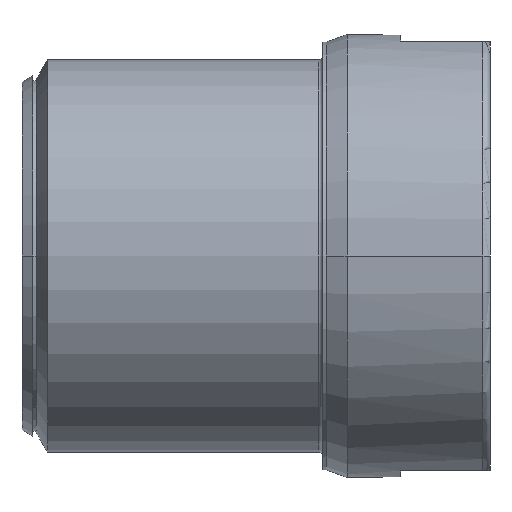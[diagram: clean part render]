
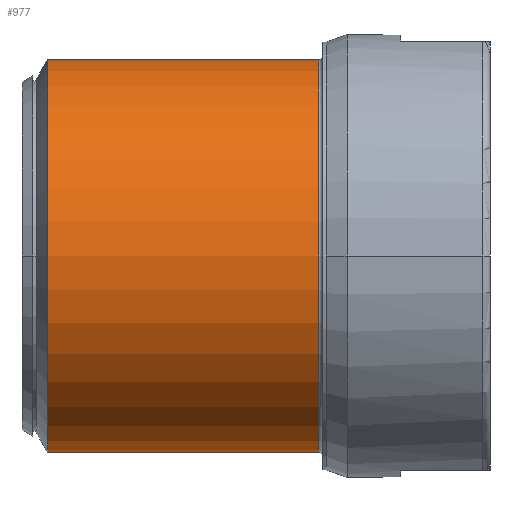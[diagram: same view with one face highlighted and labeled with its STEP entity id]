
A CAD part, front view. The second image highlights one B-rep face of the part: STEP entity #977.
In plain terms, the highlighted cylindrical face has radius 55 mm (diameter 110 mm), a partial arc.
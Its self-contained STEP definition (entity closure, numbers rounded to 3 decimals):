
#63 = AXIS2_PLACEMENT_3D ( 'NONE', #753, #750, #756 ) ;
#66 = VECTOR ( 'NONE', #718, 1000. ) ;
#73 = AXIS2_PLACEMENT_3D ( 'NONE', #725, #726, #727 ) ;
#76 = CIRCLE ( 'NONE', #73, 55. ) ;
#135 = VECTOR ( 'NONE', #728, 1000. ) ;
#191 = EDGE_CURVE ( 'NONE', #1405, #1375, #388, .T. ) ;
#250 = EDGE_LOOP ( 'NONE', ( #1328, #1329, #1330, #1331 ) ) ;
#383 = AXIS2_PLACEMENT_3D ( 'NONE', #1221, #1222, #1223 ) ;
#388 = CIRCLE ( 'NONE', #383, 55. ) ;
#709 = LINE ( 'NONE', #710, #66 ) ;
#710 = CARTESIAN_POINT ( 'NONE',  ( -5.267, 0., -55. ) ) ;
#718 = DIRECTION ( 'NONE',  ( -1., 0., 0. ) ) ;
#719 = CARTESIAN_POINT ( 'NONE',  ( -5.267, 0., 55. ) ) ;
#724 = LINE ( 'NONE', #719, #135 ) ;
#725 = CARTESIAN_POINT ( 'NONE',  ( 83.131, 0., 0. ) ) ;
#726 = DIRECTION ( 'NONE',  ( -1., 0., 0. ) ) ;
#727 = DIRECTION ( 'NONE',  ( 0., 0., 1. ) ) ;
#728 = DIRECTION ( 'NONE',  ( -1., 0., 0. ) ) ;
#750 = DIRECTION ( 'NONE',  ( -1., 0., 0. ) ) ;
#751 = FACE_OUTER_BOUND ( 'NONE', #250, .T. ) ;
#753 = CARTESIAN_POINT ( 'NONE',  ( -5.267, 0., 0. ) ) ;
#755 = CYLINDRICAL_SURFACE ( 'NONE', #63, 55. ) ;
#756 = DIRECTION ( 'NONE',  ( 0., 0., 1. ) ) ;
#891 = CARTESIAN_POINT ( 'NONE',  ( 7.185, 0., 55. ) ) ;
#895 = CARTESIAN_POINT ( 'NONE',  ( 83.131, 0., -55. ) ) ;
#896 = CARTESIAN_POINT ( 'NONE',  ( 83.131, 0., 55. ) ) ;
#915 = CARTESIAN_POINT ( 'NONE',  ( 7.185, 0., -55. ) ) ;
#970 = EDGE_CURVE ( 'NONE', #1380, #1405, #709, .T. ) ;
#972 = EDGE_CURVE ( 'NONE', #1380, #1381, #76, .T. ) ;
#973 = EDGE_CURVE ( 'NONE', #1381, #1375, #724, .T. ) ;
#977 = ADVANCED_FACE ( 'NONE', ( #751 ), #755, .T. ) ;
#1221 = CARTESIAN_POINT ( 'NONE',  ( 7.185, 0., 0. ) ) ;
#1222 = DIRECTION ( 'NONE',  ( -1., 0., 0. ) ) ;
#1223 = DIRECTION ( 'NONE',  ( 0., 0., -1. ) ) ;
#1328 = ORIENTED_EDGE ( 'NONE', *, *, #970, .F. ) ;
#1329 = ORIENTED_EDGE ( 'NONE', *, *, #972, .T. ) ;
#1330 = ORIENTED_EDGE ( 'NONE', *, *, #973, .T. ) ;
#1331 = ORIENTED_EDGE ( 'NONE', *, *, #191, .F. ) ;
#1375 = VERTEX_POINT ( 'NONE', #891 ) ;
#1380 = VERTEX_POINT ( 'NONE', #895 ) ;
#1381 = VERTEX_POINT ( 'NONE', #896 ) ;
#1405 = VERTEX_POINT ( 'NONE', #915 ) ;
